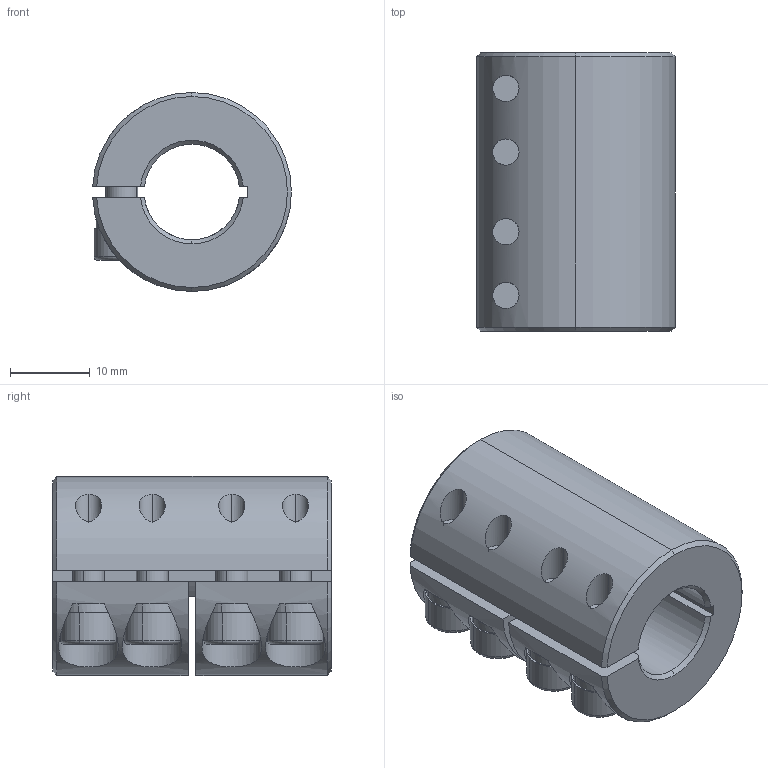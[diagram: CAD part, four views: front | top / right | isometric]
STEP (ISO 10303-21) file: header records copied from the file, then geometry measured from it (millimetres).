
FILE_DESCRIPTION (( 'STEP AP203' ), '1' );
FILE_NAME ('LL-B-D25L35-12-12.STEP', '2021-11-05T07:06:33', ( '' ), ( '' ), 'SwSTEP 2.0', 'SolidWorks 2018', '' );
FILE_SCHEMA (( 'CONFIG_CONTROL_DESIGN' ));
Length unit declared in the file: millimetre
Products named in the file (1): LL-B-D25L35-12-12
Bounding box: 24.98 x 35 x 25 mm (x, y, z)
Volume: 12374 mm3; surface area: 6859 mm2
Topology: 1 solids, 1 shells, 187 faces, 478 edges, 297 vertices
Faces by surface type: plane 90, cylinder 69, cone 20, torus 8
Entity records: 6142 total; most frequent: CARTESIAN_POINT 1467, DIRECTION 1011, ORIENTED_EDGE 940, EDGE_CURVE 470, AXIS2_PLACEMENT_3D 393, VERTEX_POINT 297, LINE 225, VECTOR 225
